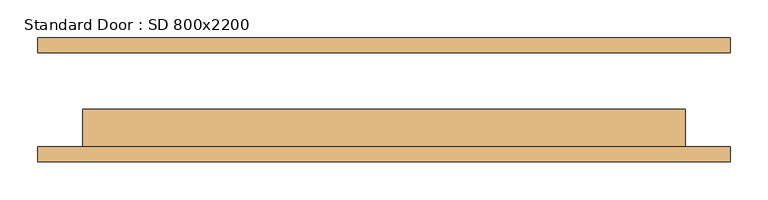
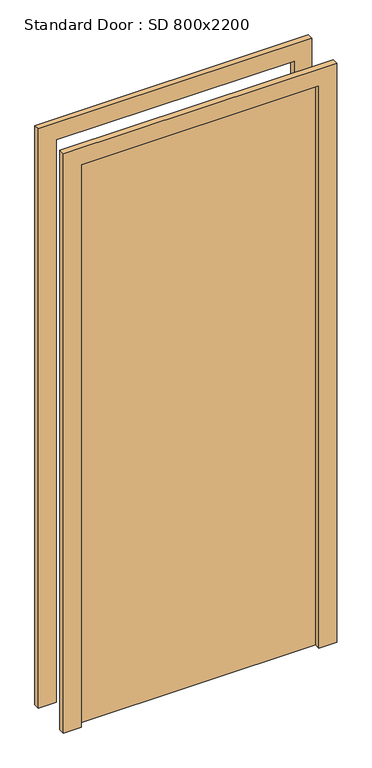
"""IFC4 building model written with IfcOpenShell, lengths in millimetres: door geometry, Standard Door : SD 800x2200."""

from ifc_helpers import new_model, si_unit, frame, origin, origin_with_axes, place, context, project, spatial, polyline, outline, extrude, source, transform, mapped, element, save


def standard_door_sd_800x2200_ac72c0e8(model_context):
    return source(origin(), model_context, "Body", "SweptSolid", [
        extrude(outline(polyline([(2060.0, -460.0), (0.0, -460.0), (0.0, -400.0), (2000.0, -400.0), (2000.0, 400.0), (0.0, 400.0), (0.0, 460.0), (2060.0, 460.0), (2060.0, -460.0)])), frame((0.0, -82.5, 0.0), z_axis=(0.0, 1.0, 0.0), x_axis=(0.0, 0.0, 1.0)), (0.0, 0.0, 1.0), 20.0),
        extrude(outline(polyline([(2060.0, 460.0), (2060.0, -460.0), (0.0, -460.0), (0.0, -400.0), (2000.0, -400.0), (2000.0, 400.0), (0.0, 400.0), (0.0, 460.0), (2060.0, 460.0)])), frame((0.0, 62.5, 0.0), z_axis=(0.0, 1.0, 0.0), x_axis=(0.0, 0.0, 1.0)), (0.0, 0.0, 1.0), 20.0),
        extrude(outline(polyline([(400.0, -12.5), (400.0, -62.5), (-400.0, -62.5), (-400.0, -12.5), (400.0, -12.5)])), origin_with_axes(), (0.0, 0.0, 1.0), 2000.0),
    ])


if __name__ == "__main__":
    model = new_model("IFC4")
    model_context = context("Model", 3, world=origin())
    ifc_project = project(units=[si_unit("LENGTHUNIT", "METRE", prefix="MILLI")], contexts=[model_context])
    site = spatial("IfcSite", under=ifc_project)
    building = spatial("IfcBuilding", under=site)
    placement = place(None, origin())
    standard_door_sd_800x2200_shape = standard_door_sd_800x2200_ac72c0e8(model_context)
    element("IfcDoor", 1, ObjectType="Standard Door : SD 800x2200", at=placement, inside=building, context=model_context, shape_type="MappedRepresentation", body=[
        mapped(standard_door_sd_800x2200_shape, transform((0.0, 0.0, 0.0), x_axis=(1.0, 0.0, 0.0), y_axis=(0.0, 1.0, 0.0), z_axis=(0.0, 0.0, 1.0))),
    ])
    save(model, "model.ifc")
